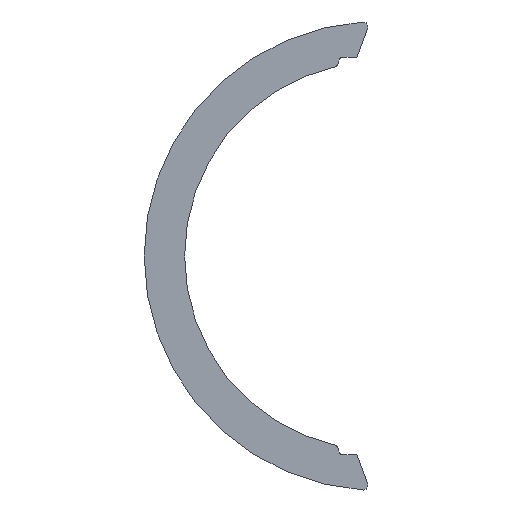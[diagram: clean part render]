
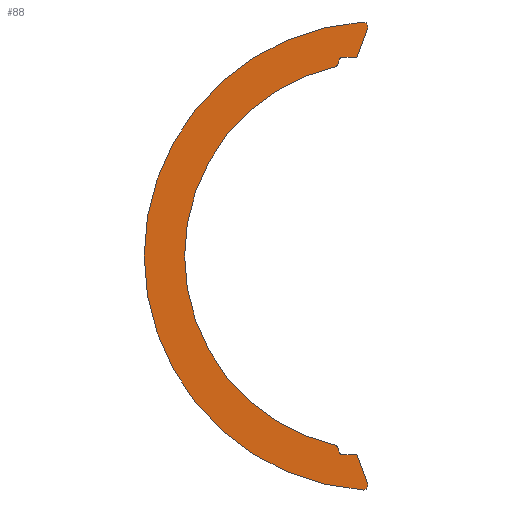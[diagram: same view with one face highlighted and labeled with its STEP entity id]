
A CAD part, left-side view. The second image highlights one B-rep face of the part: STEP entity #88.
In plain terms, the highlighted planar face has unit normal (-1, 0, 0).
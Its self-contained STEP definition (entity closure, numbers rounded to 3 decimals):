
#7 = VERTEX_POINT ( 'NONE', #453 ) ;
#8 = AXIS2_PLACEMENT_3D ( 'NONE', #375, #360, #224 ) ;
#16 = VERTEX_POINT ( 'NONE', #447 ) ;
#20 = DIRECTION ( 'NONE',  ( 1., 0., 0. ) ) ;
#25 = CARTESIAN_POINT ( 'NONE',  ( -1510., 4.376, -1.603 ) ) ;
#54 = EDGE_CURVE ( 'NONE', #193, #7, #610, .T. ) ;
#64 = ORIENTED_EDGE ( 'NONE', *, *, #146, .F. ) ;
#66 = ORIENTED_EDGE ( 'NONE', *, *, #396, .F. ) ;
#69 = CIRCLE ( 'NONE', #8, 0.1 ) ;
#71 = DIRECTION ( 'NONE',  ( 0., 0., -1. ) ) ;
#72 = LINE ( 'NONE', #25, #567 ) ;
#73 = ORIENTED_EDGE ( 'NONE', *, *, #580, .T. ) ;
#87 = VERTEX_POINT ( 'NONE', #282 ) ;
#88 = ADVANCED_FACE ( 'NONE', ( #574 ), #232, .F. ) ;
#94 = AXIS2_PLACEMENT_3D ( 'NONE', #557, #330, #277 ) ;
#97 = CARTESIAN_POINT ( 'NONE',  ( -1510., 1.942, -8.538 ) ) ;
#103 = ORIENTED_EDGE ( 'NONE', *, *, #400, .F. ) ;
#107 = ORIENTED_EDGE ( 'NONE', *, *, #150, .T. ) ;
#109 = VERTEX_POINT ( 'NONE', #197 ) ;
#111 = LINE ( 'NONE', #316, #642 ) ;
#114 = ORIENTED_EDGE ( 'NONE', *, *, #155, .T. ) ;
#121 = CARTESIAN_POINT ( 'NONE',  ( -1510., 1.04, 8.852 ) ) ;
#123 = AXIS2_PLACEMENT_3D ( 'NONE', #388, #590, #127 ) ;
#127 = DIRECTION ( 'NONE',  ( 0., 0., -1. ) ) ;
#128 = VERTEX_POINT ( 'NONE', #121 ) ;
#134 = AXIS2_PLACEMENT_3D ( 'NONE', #322, #20, #71 ) ;
#142 = DIRECTION ( 'NONE',  ( 0., 0.344, 0.939 ) ) ;
#146 = EDGE_CURVE ( 'NONE', #568, #299, #442, .T. ) ;
#150 = EDGE_CURVE ( 'NONE', #269, #16, #166, .T. ) ;
#155 = EDGE_CURVE ( 'NONE', #16, #434, #72, .T. ) ;
#165 = DIRECTION ( 'NONE',  ( 0., 0.344, -0.939 ) ) ;
#166 = CIRCLE ( 'NONE', #482, 0.1 ) ;
#174 = CARTESIAN_POINT ( 'NONE',  ( -1510., 0.489, 10.165 ) ) ;
#177 = CARTESIAN_POINT ( 'NONE',  ( -1510., 0.677, 10.233 ) ) ;
#179 = EDGE_CURVE ( 'NONE', #613, #128, #411, .T. ) ;
#187 = DIRECTION ( 'NONE',  ( 0., 0., -1. ) ) ;
#191 = CARTESIAN_POINT ( 'NONE',  ( -1510., 0., -8.852 ) ) ;
#192 = CARTESIAN_POINT ( 'NONE',  ( -1510., 0., 0. ) ) ;
#193 = VERTEX_POINT ( 'NONE', #305 ) ;
#197 = CARTESIAN_POINT ( 'NONE',  ( -1510., 1.65, 8.852 ) ) ;
#210 = DIRECTION ( 'NONE',  ( 0., 0., -1. ) ) ;
#223 = EDGE_LOOP ( 'NONE', ( #230, #321, #103, #332, #405, #427, #64, #503, #486, #380, #73, #107, #114, #647, #370, #66 ) ) ;
#224 = DIRECTION ( 'NONE',  ( 0., 0., -1. ) ) ;
#226 = EDGE_CURVE ( 'NONE', #193, #109, #324, .T. ) ;
#230 = ORIENTED_EDGE ( 'NONE', *, *, #54, .F. ) ;
#232 = PLANE ( 'NONE',  #459 ) ;
#233 = VERTEX_POINT ( 'NONE', #404 ) ;
#234 = LINE ( 'NONE', #454, #309 ) ;
#240 = CARTESIAN_POINT ( 'NONE',  ( -1510., 0.69, -10.433 ) ) ;
#269 = VERTEX_POINT ( 'NONE', #648 ) ;
#270 = DIRECTION ( 'NONE',  ( 0., 0.344, -0.939 ) ) ;
#277 = DIRECTION ( 'NONE',  ( 0., 0., -1. ) ) ;
#278 = DIRECTION ( 'NONE',  ( 1., 0., 0. ) ) ;
#282 = CARTESIAN_POINT ( 'NONE',  ( -1510., 1.04, -8.852 ) ) ;
#285 = AXIS2_PLACEMENT_3D ( 'NONE', #177, #560, #507 ) ;
#288 = VERTEX_POINT ( 'NONE', #502 ) ;
#292 = DIRECTION ( 'NONE',  ( 1., 0., 0. ) ) ;
#299 = VERTEX_POINT ( 'NONE', #644 ) ;
#305 = CARTESIAN_POINT ( 'NONE',  ( -1510., 1.744, 8.787 ) ) ;
#309 = VECTOR ( 'NONE', #371, 1000. ) ;
#316 = CARTESIAN_POINT ( 'NONE',  ( -1510., 3.715, 1.361 ) ) ;
#321 = ORIENTED_EDGE ( 'NONE', *, *, #226, .T. ) ;
#322 = CARTESIAN_POINT ( 'NONE',  ( -1510., 0.677, -10.233 ) ) ;
#324 = CIRCLE ( 'NONE', #491, 0.1 ) ;
#327 = CARTESIAN_POINT ( 'NONE',  ( -1510., 0., 0. ) ) ;
#330 = DIRECTION ( 'NONE',  ( 1., 0., 0. ) ) ;
#332 = ORIENTED_EDGE ( 'NONE', *, *, #179, .F. ) ;
#345 = LINE ( 'NONE', #639, #461 ) ;
#358 = VERTEX_POINT ( 'NONE', #424 ) ;
#360 = DIRECTION ( 'NONE',  ( 1., 0., 0. ) ) ;
#363 = EDGE_CURVE ( 'NONE', #529, #568, #500, .T. ) ;
#369 = AXIS2_PLACEMENT_3D ( 'NONE', #97, #378, #490 ) ;
#370 = ORIENTED_EDGE ( 'NONE', *, *, #492, .T. ) ;
#371 = DIRECTION ( 'NONE',  ( 0., 1., 0. ) ) ;
#375 = CARTESIAN_POINT ( 'NONE',  ( -1510., 1.04, -8.952 ) ) ;
#378 = DIRECTION ( 'NONE',  ( 1., 0., 0. ) ) ;
#380 = ORIENTED_EDGE ( 'NONE', *, *, #478, .F. ) ;
#387 = LINE ( 'NONE', #191, #394 ) ;
#388 = CARTESIAN_POINT ( 'NONE',  ( -1510., 1.04, 8.952 ) ) ;
#393 = CARTESIAN_POINT ( 'NONE',  ( -1510., 0.946, 8.918 ) ) ;
#394 = VECTOR ( 'NONE', #484, 1000. ) ;
#396 = EDGE_CURVE ( 'NONE', #7, #288, #416, .T. ) ;
#400 = EDGE_CURVE ( 'NONE', #128, #109, #234, .T. ) ;
#404 = CARTESIAN_POINT ( 'NONE',  ( -1510., 1.92, -8.44 ) ) ;
#405 = ORIENTED_EDGE ( 'NONE', *, *, #409, .F. ) ;
#407 = CARTESIAN_POINT ( 'NONE',  ( -1510., 0.489, -10.165 ) ) ;
#409 = EDGE_CURVE ( 'NONE', #556, #613, #111, .T. ) ;
#411 = CIRCLE ( 'NONE', #123, 0.1 ) ;
#416 = CIRCLE ( 'NONE', #585, 0.1 ) ;
#424 = CARTESIAN_POINT ( 'NONE',  ( -1510., 0.946, -8.918 ) ) ;
#427 = ORIENTED_EDGE ( 'NONE', *, *, #505, .F. ) ;
#434 = VERTEX_POINT ( 'NONE', #510 ) ;
#442 = CIRCLE ( 'NONE', #633, 10.456 ) ;
#447 = CARTESIAN_POINT ( 'NONE',  ( -1510., 1.744, -8.787 ) ) ;
#449 = DIRECTION ( 'NONE',  ( 1., 0., 0. ) ) ;
#453 = CARTESIAN_POINT ( 'NONE',  ( -1510., 1.848, 8.503 ) ) ;
#454 = CARTESIAN_POINT ( 'NONE',  ( -1510., 0., 8.852 ) ) ;
#456 = CARTESIAN_POINT ( 'NONE',  ( -1510., 1.942, 8.538 ) ) ;
#459 = AXIS2_PLACEMENT_3D ( 'NONE', #192, #578, #541 ) ;
#461 = VECTOR ( 'NONE', #142, 1000. ) ;
#473 = DIRECTION ( 'NONE',  ( 0., 0.344, 0.939 ) ) ;
#478 = EDGE_CURVE ( 'NONE', #87, #358, #69, .T. ) ;
#482 = AXIS2_PLACEMENT_3D ( 'NONE', #525, #278, #641 ) ;
#484 = DIRECTION ( 'NONE',  ( 0., 1., 0. ) ) ;
#486 = ORIENTED_EDGE ( 'NONE', *, *, #596, .T. ) ;
#490 = DIRECTION ( 'NONE',  ( 0., 0., -1. ) ) ;
#491 = AXIS2_PLACEMENT_3D ( 'NONE', #498, #449, #210 ) ;
#492 = EDGE_CURVE ( 'NONE', #233, #288, #612, .T. ) ;
#497 = CIRCLE ( 'NONE', #369, 0.1 ) ;
#498 = CARTESIAN_POINT ( 'NONE',  ( -1510., 1.65, 8.752 ) ) ;
#500 = CIRCLE ( 'NONE', #134, 0.2 ) ;
#502 = CARTESIAN_POINT ( 'NONE',  ( -1510., 1.92, 8.44 ) ) ;
#503 = ORIENTED_EDGE ( 'NONE', *, *, #363, .F. ) ;
#505 = EDGE_CURVE ( 'NONE', #299, #556, #600, .T. ) ;
#507 = DIRECTION ( 'NONE',  ( 0., 0., -1. ) ) ;
#510 = CARTESIAN_POINT ( 'NONE',  ( -1510., 1.848, -8.503 ) ) ;
#514 = VECTOR ( 'NONE', #270, 1000. ) ;
#517 = CARTESIAN_POINT ( 'NONE',  ( -1510., 4.376, 1.603 ) ) ;
#520 = DIRECTION ( 'NONE',  ( 1., 0., 0. ) ) ;
#525 = CARTESIAN_POINT ( 'NONE',  ( -1510., 1.65, -8.752 ) ) ;
#529 = VERTEX_POINT ( 'NONE', #407 ) ;
#541 = DIRECTION ( 'NONE',  ( 0., 0., -1. ) ) ;
#556 = VERTEX_POINT ( 'NONE', #174 ) ;
#557 = CARTESIAN_POINT ( 'NONE',  ( -1510., 0., 0. ) ) ;
#560 = DIRECTION ( 'NONE',  ( 1., 0., 0. ) ) ;
#567 = VECTOR ( 'NONE', #473, 1000. ) ;
#568 = VERTEX_POINT ( 'NONE', #240 ) ;
#574 = FACE_OUTER_BOUND ( 'NONE', #223, .T. ) ;
#578 = DIRECTION ( 'NONE',  ( 1., 0., 0. ) ) ;
#580 = EDGE_CURVE ( 'NONE', #87, #269, #387, .T. ) ;
#585 = AXIS2_PLACEMENT_3D ( 'NONE', #456, #520, #187 ) ;
#590 = DIRECTION ( 'NONE',  ( 1., 0., 0. ) ) ;
#596 = EDGE_CURVE ( 'NONE', #529, #358, #345, .T. ) ;
#600 = CIRCLE ( 'NONE', #285, 0.2 ) ;
#610 = LINE ( 'NONE', #517, #514 ) ;
#612 = CIRCLE ( 'NONE', #94, 8.656 ) ;
#613 = VERTEX_POINT ( 'NONE', #393 ) ;
#617 = EDGE_CURVE ( 'NONE', #233, #434, #497, .T. ) ;
#626 = DIRECTION ( 'NONE',  ( 0., 0., -1. ) ) ;
#633 = AXIS2_PLACEMENT_3D ( 'NONE', #327, #292, #626 ) ;
#639 = CARTESIAN_POINT ( 'NONE',  ( -1510., 3.715, -1.361 ) ) ;
#641 = DIRECTION ( 'NONE',  ( 0., 0., -1. ) ) ;
#642 = VECTOR ( 'NONE', #165, 1000. ) ;
#644 = CARTESIAN_POINT ( 'NONE',  ( -1510., 0.69, 10.433 ) ) ;
#647 = ORIENTED_EDGE ( 'NONE', *, *, #617, .F. ) ;
#648 = CARTESIAN_POINT ( 'NONE',  ( -1510., 1.65, -8.852 ) ) ;
